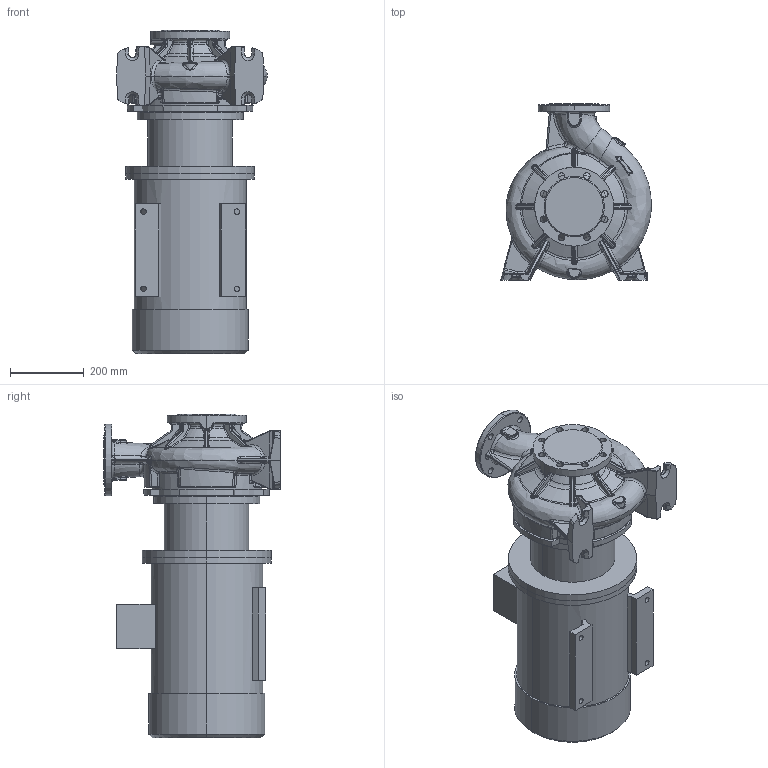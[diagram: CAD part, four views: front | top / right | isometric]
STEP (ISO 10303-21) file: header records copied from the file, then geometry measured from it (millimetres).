
FILE_DESCRIPTION (( 'STEP AP214' ), '1' );
FILE_NAME ('KRM 100-80-250-4-11.STEP', '2026-04-22T09:05:47', ( '' ), ( '' ), 'SwSTEP 2.0', 'SolidWorks 2016', '' );
FILE_SCHEMA (( 'AUTOMOTIVE_DESIGN' ));
Length unit declared in the file: millimetre
Products named in the file (1): KRM 100-80-250-4-11
Bounding box: 410.05 x 480 x 880.8 mm (x, y, z)
Volume: 66669965.3 mm3; surface area: 2101768.2 mm2
Topology: 8 solids, 8 shells, 1191 faces, 2881 edges, 1678 vertices
Faces by surface type: bspline 481, cylinder 305, plane 193, torus 112, cone 61, sphere 39
Entity records: 86196 total; most frequent: CARTESIAN_POINT 49022, ORIENTED_EDGE 5678, DIRECTION 4250, EDGE_CURVE 2839, AXIS2_PLACEMENT_3D 1820, VERTEX_POINT 1678, EDGE_LOOP 1237, UNCERTAINTY_MEASURE_WITH_UNIT 1201
